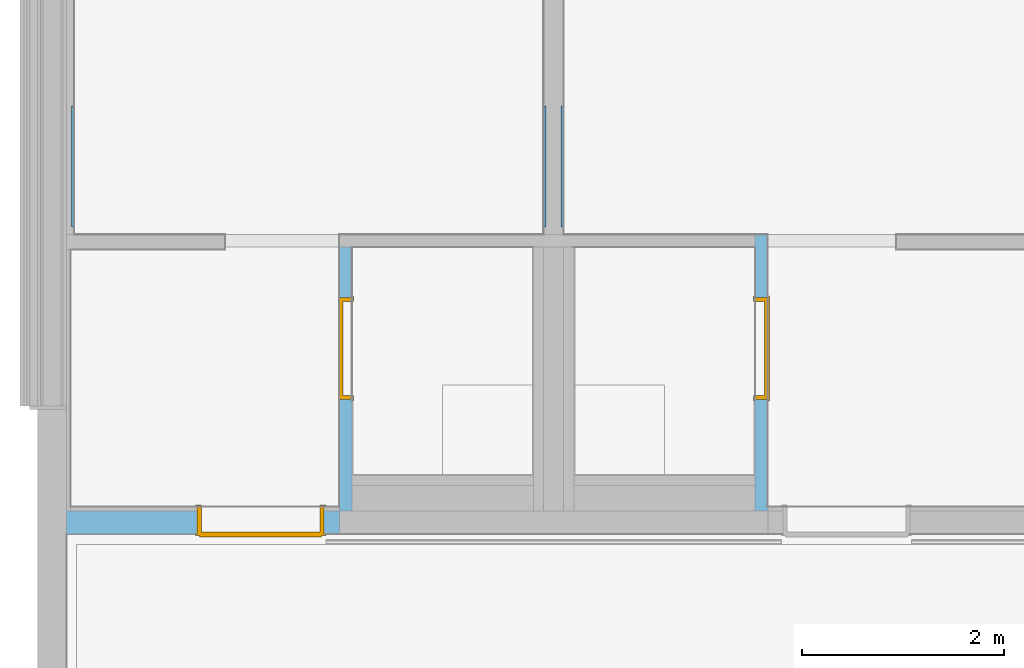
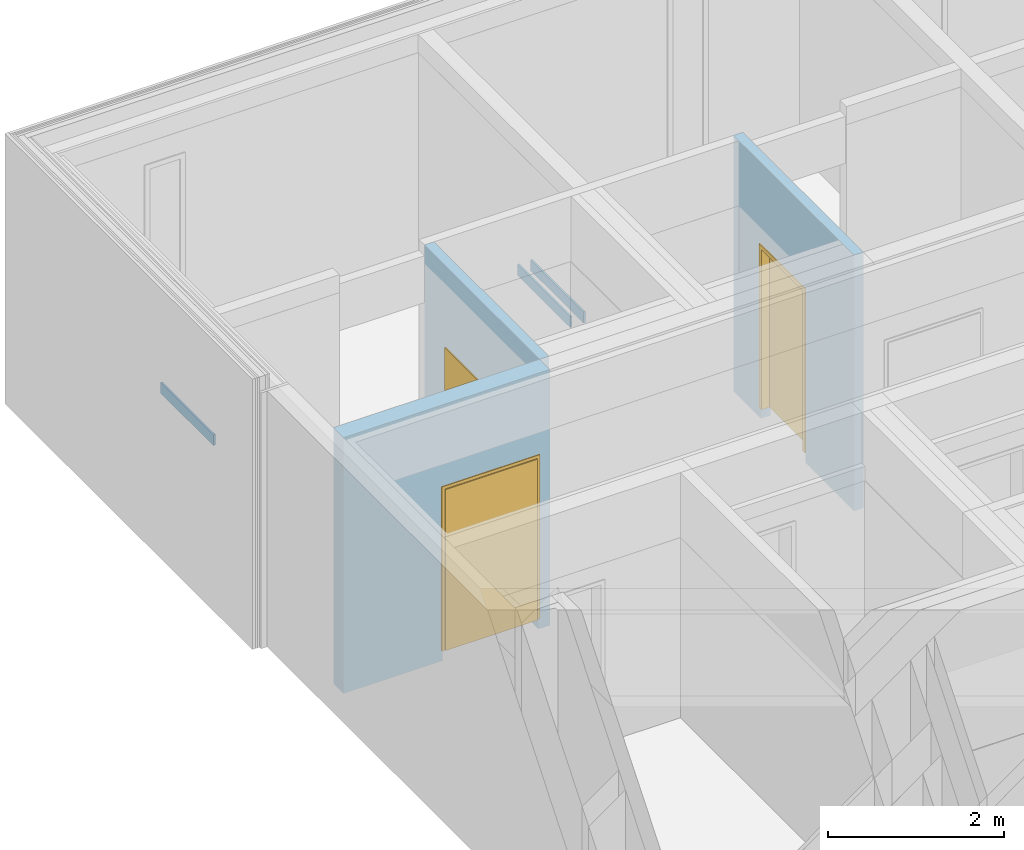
# One storey, part 99 of 222: 3 doors, 3 walls, 3 openings, plus 3 elements that do not belong to this part.
"""IFC4 building model written with IfcOpenShell, lengths in metres."""

from ifc_helpers import new_model, entity, si_unit, converted_unit, derived_unit, frame, frame_2d, origin, origin_with_axes, place, context, subcontext, project, spatial, polyline, rectangle, outline, extrude, faceted_brep, source, transform, mapped, material, type_object, element, fill, save


model = new_model("IFC4")

# Units and contexts
model_context = context("Model", 3, precision=1e-05, world=origin())
body_context = subcontext(model_context, "Body", "Model", "MODEL_VIEW")
ifc_project = project(units=[si_unit("LENGTHUNIT", "METRE"), si_unit("AREAUNIT", "SQUARE_METRE"), si_unit("VOLUMEUNIT", "CUBIC_METRE"), si_unit("MASSUNIT", "GRAM", prefix="KILO"), converted_unit("PLANEANGLEUNIT", "DEGREE", entity("IfcPlaneAngleMeasure", 0.0174532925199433), si_unit("PLANEANGLEUNIT", "RADIAN"), dimensions=[0, 0, 0, 0, 0, 0, 0]), derived_unit("THERMALTRANSMITTANCEUNIT", [(si_unit("POWERUNIT", "WATT"), 1), (si_unit("THERMODYNAMICTEMPERATUREUNIT", "KELVIN"), -1), (si_unit("LENGTHUNIT", "METRE"), -2)]), derived_unit("VOLUMETRICFLOWRATEUNIT", [(si_unit("LENGTHUNIT", "METRE"), 3), (converted_unit("TIMEUNIT", "hour", entity("IfcTimeMeasure", 3600.0), si_unit("TIMEUNIT", "SECOND"), dimensions=[0, 0, 1, 0, 0, 0, 0]), -1), (si_unit("LENGTHUNIT", "METRE"), -1)])], contexts=[model_context])

# Site, building, storey
site_placement = place(None, origin())
site = spatial("IfcSite", under=ifc_project, at=site_placement, Name="Psychiatrie Neubau Wunstorf", CompositionType="ELEMENT")
building_placement = place(site_placement, origin())
building = spatial("IfcBuilding", under=site, at=building_placement, Name="Neubau H2 Stationsgebäude", CompositionType="ELEMENT")
storey_placement = place(building_placement, frame((0.0, 0.0, 3.6)))
storey = spatial("IfcBuildingStorey", under=building, at=storey_placement, Name="H2 Ebene +1", CompositionType="ELEMENT", Elevation=3.6)

# Walls
wall_1_placement = place(storey_placement, frame((0.218999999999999, 27.1628367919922, 1.575)))
element("IfcWall", 1, at=wall_1_placement, inside=storey, Name="WV 1.1", context=body_context, shape_type="Brep", body=[
    faceted_brep([(0.025, 1.2, 0.0), (0.0, 1.2, 0.0), (0.0, 0.0, 0.0), (0.0250000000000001, 0.0, 0.0), (0.0, 1.2, 0.15), (0.025, 1.2, 0.15), (0.0250000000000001, 0.0, 0.15), (0.0, 0.0, 0.15)], [[[0, 1, 2, 3]], [[4, 5, 6, 7]], [[1, 0, 5, 4]], [[2, 1, 4, 7]], [[3, 2, 7, 6]], [[0, 3, 6, 5]]], orient=[[False], [False], [False], [False], [False], [False]]),
])
for number, where, name in (
    (2, (4.90000000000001, 27.1628367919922, 1.575), "WV 1.1"),
    (3, (5.07500000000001, 27.1628367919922, 1.575), "WV 1.1"),
):
    element("IfcWall", number, at=place(storey_placement, frame(where)), inside=storey, Name=name, context=body_context, shape_type="Brep", body=[
        faceted_brep([(0.025, 1.2, 0.0), (0.0, 1.2, 0.0), (0.0, 0.0, 0.0), (0.025, 0.0, 0.0), (0.0, 1.2, 0.15), (0.025, 1.2, 0.15), (0.025, 0.0, 0.15), (0.0, 0.0, 0.15)], [[[0, 1, 2, 3]], [[4, 5, 6, 7]], [[1, 0, 5, 4]], [[2, 1, 4, 7]], [[3, 2, 7, 6]], [[0, 3, 6, 5]]], orient=[[False], [False], [False], [False], [False], [False]]),
    ])

# Wall, opening, door
ifc_material_1 = material(Name="WI-HW 60")
wall_2_placement = place(storey_placement, frame((0.168999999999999, 24.1175, 0.0)))
wall_2 = element("IfcWall", 4, at=wall_2_placement, inside=storey, material=ifc_material_1, context=body_context, shape_type="SweptSolid", body=[
    extrude(rectangle(XDim=2.70600000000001, YDim=0.232, at=frame_2d((1.353, 0.116), x_axis=(1.0, 0.0))), origin_with_axes(), (0.0, 0.0, 1.0), 3.55),
])
opening_1_placement = place(wall_2_placement, frame((1.296, 0.0, 0.0), z_axis=(0.0, 1.0, 0.0), x_axis=(0.0, 0.0, 1.0)))
opening_1 = element("IfcOpeningElement", 5, at=opening_1_placement, cuts=wall_2, Name="Türöffnung", ObjectType="Opening", context=body_context, shape_type="SweptSolid", body=[
    extrude(outline(polyline([(2.41, 1.26), (2.41, 0.0), (0.0, 0.0), (0.0, 1.26), (2.41, 1.26)])), origin_with_axes(), (0.0, 0.0, 1.0), 0.232),
])
ifc_material_2 = material(Name="TI-2F-UZ-D")
door_type_1 = type_object("IfcDoorType", Name="SMT", OperationType="DOUBLE_DOOR_SINGLE_SWING", ParameterTakesPrecedence=False, PredefinedType="DOOR")
shared_shape_1 = source(origin_with_axes(), body_context, "Body", "Brep", [
    faceted_brep([(1.26, -0.0150000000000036, 2.41), (1.26, -0.0150000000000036, 0.15), (1.22, -0.0150000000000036, 0.15), (1.22, -0.0150000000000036, 2.41), (1.26, 0.286999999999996, 0.15), (1.26, 0.286999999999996, 2.41), (1.22, 0.286999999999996, 2.41), (1.22, 0.286999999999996, 0.15)], [[[0, 1, 2, 3]], [[4, 5, 6, 7]], [[1, 0, 5, 4]], [[2, 1, 4, 7]], [[3, 2, 7, 6]], [[0, 3, 6, 5]]], orient=[[False], [False], [False], [False], [False], [False]]),
    faceted_brep([(1.26, -0.0150000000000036, 2.425), (1.275, -0.0150000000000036, 2.425), (1.275, -0.0150000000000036, 0.15), (1.26, -0.0150000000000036, 0.15), (1.26, 0.0, 0.15), (1.275, 0.0, 0.15), (1.275, 0.0, 2.425), (1.26, 0.0, 2.425)], [[[0, 1, 2, 3]], [[4, 5, 6, 7]], [[3, 4, 7, 0]], [[2, 5, 4, 3]], [[1, 6, 5, 2]], [[0, 7, 6, 1]]], orient=[[False], [False], [False], [False], [False], [False]]),
    faceted_brep([(1.26, 0.271999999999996, 2.425), (1.275, 0.271999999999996, 2.425), (1.275, 0.271999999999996, 0.15), (1.26, 0.271999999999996, 0.15), (1.26, 0.286999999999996, 0.15), (1.275, 0.286999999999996, 0.15), (1.275, 0.286999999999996, 2.425), (1.26, 0.286999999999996, 2.425)], [[[0, 1, 2, 3]], [[4, 5, 6, 7]], [[3, 4, 7, 0]], [[2, 5, 4, 3]], [[1, 6, 5, 2]], [[0, 7, 6, 1]]], orient=[[False], [False], [False], [False], [False], [False]]),
    faceted_brep([(0.04, -0.0150000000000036, 2.41), (0.04, -0.0150000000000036, 0.15), (0.0, -0.0150000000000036, 0.15), (0.0, -0.0150000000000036, 2.41), (0.04, 0.286999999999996, 0.15), (0.04, 0.286999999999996, 2.41), (0.0, 0.286999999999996, 2.41), (0.0, 0.286999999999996, 0.15)], [[[0, 1, 2, 3]], [[4, 5, 6, 7]], [[1, 0, 5, 4]], [[2, 1, 4, 7]], [[3, 2, 7, 6]], [[0, 3, 6, 5]]], orient=[[False], [False], [False], [False], [False], [False]]),
    faceted_brep([(0.0, -0.0150000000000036, 2.425), (0.0, -0.0150000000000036, 0.15), (-0.015, -0.0150000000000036, 0.15), (-0.015, -0.0150000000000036, 2.425), (0.0, 0.0, 0.15), (0.0, 0.0, 2.425), (-0.015, 0.0, 2.425), (-0.015, 0.0, 0.15)], [[[0, 1, 2, 3]], [[4, 5, 6, 7]], [[1, 0, 5, 4]], [[2, 1, 4, 7]], [[3, 2, 7, 6]], [[0, 3, 6, 5]]], orient=[[False], [False], [False], [False], [False], [False]]),
    faceted_brep([(0.0, 0.271999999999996, 2.425), (0.0, 0.271999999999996, 0.15), (-0.015, 0.271999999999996, 0.15), (-0.015, 0.271999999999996, 2.425), (0.0, 0.286999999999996, 0.15), (0.0, 0.286999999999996, 2.425), (-0.015, 0.286999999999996, 2.425), (-0.015, 0.286999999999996, 0.15)], [[[0, 1, 2, 3]], [[4, 5, 6, 7]], [[1, 0, 5, 4]], [[2, 1, 4, 7]], [[3, 2, 7, 6]], [[0, 3, 6, 5]]], orient=[[False], [False], [False], [False], [False], [False]]),
    faceted_brep([(1.22, -0.0150000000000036, 2.41), (1.22, -0.0150000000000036, 2.37), (0.04, -0.0150000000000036, 2.37), (0.04, -0.0150000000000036, 2.41), (1.22, 0.286999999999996, 2.37), (1.22, 0.286999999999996, 2.41), (0.04, 0.286999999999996, 2.41), (0.04, 0.286999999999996, 2.37)], [[[0, 1, 2, 3]], [[4, 5, 6, 7]], [[1, 0, 5, 4]], [[2, 1, 4, 7]], [[3, 2, 7, 6]], [[0, 3, 6, 5]]], orient=[[False], [False], [False], [False], [False], [False]]),
    faceted_brep([(1.26, -0.0150000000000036, 2.425), (1.26, -0.0150000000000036, 2.41), (0.0, -0.0150000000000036, 2.41), (0.0, -0.0150000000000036, 2.425), (1.26, 0.0, 2.41), (1.26, 0.0, 2.425), (0.0, 0.0, 2.425), (0.0, 0.0, 2.41)], [[[0, 1, 2, 3]], [[4, 5, 6, 7]], [[1, 0, 5, 4]], [[2, 1, 4, 7]], [[3, 2, 7, 6]], [[0, 3, 6, 5]]], orient=[[False], [False], [False], [False], [False], [False]]),
    faceted_brep([(1.26, 0.271999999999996, 2.425), (1.26, 0.271999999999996, 2.41), (0.0, 0.271999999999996, 2.41), (0.0, 0.271999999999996, 2.425), (1.26, 0.286999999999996, 2.41), (1.26, 0.286999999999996, 2.425), (0.0, 0.286999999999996, 2.425), (0.0, 0.286999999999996, 2.41)], [[[0, 1, 2, 3]], [[4, 5, 6, 7]], [[1, 0, 5, 4]], [[2, 1, 4, 7]], [[3, 2, 7, 6]], [[0, 3, 6, 5]]], orient=[[False], [False], [False], [False], [False], [False]]),
    faceted_brep([(1.235, 0.251999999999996, 2.385), (1.235, 0.251999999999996, 0.15), (0.335, 0.251999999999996, 0.15), (0.335, 0.251999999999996, 2.385), (1.235, 0.301999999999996, 0.15), (1.235, 0.301999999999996, 2.385), (0.335, 0.301999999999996, 2.385), (0.335, 0.301999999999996, 0.15)], [[[0, 1, 2, 3]], [[4, 5, 6, 7]], [[1, 0, 5, 4]], [[2, 1, 4, 7]], [[3, 2, 7, 6]], [[0, 3, 6, 5]]], orient=[[False], [False], [False], [False], [False], [False]]),
    faceted_brep([(0.334, 0.251999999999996, 2.385), (0.334, 0.251999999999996, 0.15), (0.025, 0.251999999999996, 0.15), (0.025, 0.251999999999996, 2.385), (0.334, 0.301999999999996, 0.15), (0.334, 0.301999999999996, 2.385), (0.025, 0.301999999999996, 2.385), (0.025, 0.301999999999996, 0.15)], [[[0, 1, 2, 3]], [[4, 5, 6, 7]], [[1, 0, 5, 4]], [[2, 1, 4, 7]], [[3, 2, 7, 6]], [[0, 3, 6, 5]]], orient=[[False], [False], [False], [False], [False], [False]]),
])
door_1_placement = place(opening_1_placement, frame((0.0, 1.26, 0.271999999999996), z_axis=(1.0, 0.0, 0.0), x_axis=(0.0, -1.0, 0.0)))
door_1 = element("IfcDoor", 6, at=door_1_placement, inside=storey, type_object=door_type_1, material=ifc_material_2, Name="SMT", OverallHeight=2.41, OverallWidth=1.26, context=body_context, shape_type="MappedRepresentation", body=[
    mapped(shared_shape_1, transform((0.0, 0.0, 0.0), x_axis=(1.0, 0.0, 0.0), y_axis=(0.0, 1.0, 0.0), z_axis=(0.0, 0.0, 1.0), scale=1.0)),
])
fill(opening_1, door_1)

ifc_material_3 = material(Name="WI-LB")
wall_3_placement = place(storey_placement, frame((7.00000000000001, 27.0895, 0.0), z_axis=(0.0, 0.0, 1.0), x_axis=(-3.31932372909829e-16, -1.0, 0.0)))
wall_3 = element("IfcWall", 7, at=wall_3_placement, inside=storey, material=ifc_material_3, context=body_context, shape_type="SweptSolid", body=[
    extrude(rectangle(XDim=2.73999999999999, YDim=0.125, at=frame_2d((1.37, 0.0625), x_axis=(1.0, 0.0))), origin_with_axes(), (0.0, 0.0, 1.0), 3.55),
])
opening_2_placement = place(wall_3_placement, frame((0.625, 0.0, 0.0), z_axis=(0.0, 1.0, 0.0), x_axis=(0.0, 0.0, 1.0)))
opening_2 = element("IfcOpeningElement", 8, at=opening_2_placement, cuts=wall_3, Name="Türöffnung", ObjectType="Opening", context=body_context, shape_type="SweptSolid", body=[
    extrude(outline(polyline([(2.41, 1.01), (2.41, 0.0), (0.0, 0.0), (0.0, 1.01), (2.41, 1.01)])), origin_with_axes(), (0.0, 0.0, 1.0), 0.125),
])
ifc_material_4 = material(Name="TI-1F-UZ-D-N")
door_type_2 = type_object("IfcDoorType", Name="SMT", OperationType="SINGLE_SWING_RIGHT", ParameterTakesPrecedence=False, PredefinedType="DOOR")
shared_shape_2 = source(origin_with_axes(), body_context, "Body", "Brep", [
    faceted_brep([(1.05000000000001, 0.0124999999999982, 0.0), (1.05000000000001, 0.1125, 0.0), (1.01000000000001, 0.1125, 0.0), (1.01000000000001, 0.0124999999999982, 0.0), (1.05000000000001, 0.1125, 3.55), (1.05000000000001, 0.0124999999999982, 3.55), (1.01000000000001, 0.0124999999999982, 3.55), (1.01000000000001, 0.1125, 3.55)], [[[0, 1, 2, 3]], [[4, 5, 6, 7]], [[1, 0, 5, 4]], [[2, 1, 4, 7]], [[3, 2, 7, 6]], [[0, 3, 6, 5]]], orient=[[False], [False], [False], [False], [False], [False]]),
    faceted_brep([(0.0, 0.0124999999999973, 0.0), (0.0, 0.112499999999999, 0.0), (-0.0399999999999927, 0.112499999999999, 0.0), (-0.0399999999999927, 0.0124999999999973, 0.0), (0.0, 0.112499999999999, 3.55), (0.0, 0.0124999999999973, 3.55), (-0.0399999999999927, 0.0124999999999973, 3.55), (-0.0399999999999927, 0.112499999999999, 3.55)], [[[0, 1, 2, 3]], [[4, 5, 6, 7]], [[1, 0, 5, 4]], [[2, 1, 4, 7]], [[3, 2, 7, 6]], [[0, 3, 6, 5]]], orient=[[False], [False], [False], [False], [False], [False]]),
    faceted_brep([(1.01000000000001, 0.0124999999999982, 2.41), (1.01000000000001, 0.1125, 2.41), (0.0, 0.112499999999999, 2.41), (0.0, 0.0124999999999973, 2.41), (1.01000000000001, 0.1125, 2.45), (1.01000000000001, 0.0124999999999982, 2.45), (0.0, 0.0124999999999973, 2.45), (0.0, 0.112499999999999, 2.45)], [[[0, 1, 2, 3]], [[4, 5, 6, 7]], [[1, 0, 5, 4]], [[2, 1, 4, 7]], [[3, 2, 7, 6]], [[0, 3, 6, 5]]], orient=[[False], [False], [False], [False], [False], [False]]),
])
shared_shape_3 = source(origin_with_axes(), body_context, "Body", "Brep", [
    faceted_brep([(1.01000000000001, -0.0150000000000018, 2.41), (1.01000000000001, -0.0150000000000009, 0.15), (0.970000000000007, -0.0150000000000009, 0.15), (0.970000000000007, -0.0150000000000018, 2.41), (1.01000000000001, 0.14, 0.15), (1.01000000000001, 0.14, 2.41), (0.970000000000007, 0.14, 2.41), (0.970000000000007, 0.14, 0.15)], [[[0, 1, 2, 3]], [[4, 5, 6, 7]], [[1, 0, 5, 4]], [[2, 1, 4, 7]], [[3, 2, 7, 6]], [[0, 3, 6, 5]]], orient=[[False], [False], [False], [False], [False], [False]]),
    faceted_brep([(1.01000000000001, -0.0150000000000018, 2.425), (1.02500000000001, -0.0150000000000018, 2.425), (1.02500000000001, -0.0150000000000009, 0.15), (1.01000000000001, -0.0150000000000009, 0.15), (1.01000000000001, 0.0, 0.15), (1.02500000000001, 0.0, 0.15), (1.02500000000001, 0.0, 2.425), (1.01000000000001, 0.0, 2.425)], [[[0, 1, 2, 3]], [[4, 5, 6, 7]], [[3, 4, 7, 0]], [[2, 5, 4, 3]], [[1, 6, 5, 2]], [[0, 7, 6, 1]]], orient=[[False], [False], [False], [False], [False], [False]]),
    faceted_brep([(1.01000000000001, 0.125, 2.425), (1.02500000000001, 0.125, 2.425), (1.02500000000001, 0.125, 0.15), (1.01000000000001, 0.125, 0.15), (1.01000000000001, 0.14, 0.15), (1.02500000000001, 0.14, 0.15), (1.02500000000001, 0.14, 2.425), (1.01000000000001, 0.14, 2.425)], [[[0, 1, 2, 3]], [[4, 5, 6, 7]], [[3, 4, 7, 0]], [[2, 5, 4, 3]], [[1, 6, 5, 2]], [[0, 7, 6, 1]]], orient=[[False], [False], [False], [False], [False], [False]]),
    faceted_brep([(0.0400000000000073, -0.0150000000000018, 2.41), (0.0400000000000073, -0.0150000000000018, 0.15), (0.0, -0.0150000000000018, 0.15), (0.0, -0.0150000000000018, 2.41), (0.0400000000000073, 0.139999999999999, 0.15), (0.0400000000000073, 0.139999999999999, 2.41), (0.0, 0.139999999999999, 2.41), (0.0, 0.139999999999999, 0.15)], [[[0, 1, 2, 3]], [[4, 5, 6, 7]], [[1, 0, 5, 4]], [[2, 1, 4, 7]], [[3, 2, 7, 6]], [[0, 3, 6, 5]]], orient=[[False], [False], [False], [False], [False], [False]]),
    faceted_brep([(0.0, -0.0150000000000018, 2.425), (0.0, -0.0150000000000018, 0.15), (-0.0149999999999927, -0.0150000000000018, 0.15), (-0.0149999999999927, -0.0150000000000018, 2.425), (0.0, 0.0, 0.15), (0.0, 0.0, 2.425), (-0.0149999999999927, 0.0, 2.425), (-0.0149999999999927, 0.0, 0.15)], [[[0, 1, 2, 3]], [[4, 5, 6, 7]], [[1, 0, 5, 4]], [[2, 1, 4, 7]], [[3, 2, 7, 6]], [[0, 3, 6, 5]]], orient=[[False], [False], [False], [False], [False], [False]]),
    faceted_brep([(0.0, 0.124999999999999, 2.425), (0.0, 0.124999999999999, 0.15), (-0.0149999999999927, 0.124999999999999, 0.15), (-0.0149999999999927, 0.124999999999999, 2.425), (0.0, 0.139999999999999, 0.15), (0.0, 0.139999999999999, 2.425), (-0.0149999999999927, 0.139999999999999, 2.425), (-0.0149999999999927, 0.139999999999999, 0.15)], [[[0, 1, 2, 3]], [[4, 5, 6, 7]], [[1, 0, 5, 4]], [[2, 1, 4, 7]], [[3, 2, 7, 6]], [[0, 3, 6, 5]]], orient=[[False], [False], [False], [False], [False], [False]]),
    faceted_brep([(0.970000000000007, -0.0150000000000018, 2.41), (0.970000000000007, -0.0150000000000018, 2.37), (0.0400000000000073, -0.0150000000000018, 2.37), (0.0400000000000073, -0.0150000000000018, 2.41), (0.970000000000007, 0.14, 2.37), (0.970000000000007, 0.14, 2.41), (0.0400000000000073, 0.139999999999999, 2.41), (0.0400000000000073, 0.139999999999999, 2.37)], [[[0, 1, 2, 3]], [[4, 5, 6, 7]], [[1, 0, 5, 4]], [[2, 1, 4, 7]], [[3, 2, 7, 6]], [[0, 3, 6, 5]]], orient=[[False], [False], [False], [False], [False], [False]]),
    faceted_brep([(1.01000000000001, -0.0150000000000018, 2.425), (1.01000000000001, -0.0150000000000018, 2.41), (0.0, -0.0150000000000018, 2.41), (0.0, -0.0150000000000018, 2.425), (1.01000000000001, 0.0, 2.41), (1.01000000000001, 0.0, 2.425), (0.0, 0.0, 2.425), (0.0, 0.0, 2.41)], [[[0, 1, 2, 3]], [[4, 5, 6, 7]], [[1, 0, 5, 4]], [[2, 1, 4, 7]], [[3, 2, 7, 6]], [[0, 3, 6, 5]]], orient=[[False], [False], [False], [False], [False], [False]]),
    faceted_brep([(1.01000000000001, 0.125, 2.425), (1.01000000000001, 0.125, 2.41), (0.0, 0.124999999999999, 2.41), (0.0, 0.124999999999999, 2.425), (1.01000000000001, 0.14, 2.41), (1.01000000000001, 0.14, 2.425), (0.0, 0.139999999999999, 2.425), (0.0, 0.139999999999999, 2.41)], [[[0, 1, 2, 3]], [[4, 5, 6, 7]], [[1, 0, 5, 4]], [[2, 1, 4, 7]], [[3, 2, 7, 6]], [[0, 3, 6, 5]]], orient=[[False], [False], [False], [False], [False], [False]]),
    faceted_brep([(0.985000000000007, 0.0909999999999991, 2.385), (0.985000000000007, 0.091, 0.15), (0.0250000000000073, 0.0909999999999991, 0.15), (0.0250000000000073, 0.0909999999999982, 2.385), (0.985000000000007, 0.141, 0.15), (0.985000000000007, 0.141, 2.385), (0.0250000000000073, 0.140999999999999, 2.385), (0.0250000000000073, 0.140999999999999, 0.15)], [[[0, 1, 2, 3]], [[4, 5, 6, 7]], [[1, 0, 5, 4]], [[2, 1, 4, 7]], [[3, 2, 7, 6]], [[0, 3, 6, 5]]], orient=[[False], [False], [False], [False], [False], [False]]),
])
door_2_placement = place(opening_2_placement, frame((0.0, 0.0, 0.0), z_axis=(1.0, 0.0, 0.0), x_axis=(0.0, 1.0, -5.68557430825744e-16)))
door_2 = element("IfcDoor", 9, at=door_2_placement, inside=storey, type_object=door_type_2, material=ifc_material_4, Name="SMT", OverallHeight=2.41, OverallWidth=1.01, context=body_context, shape_type="MappedRepresentation", body=[
    mapped(shared_shape_2, transform((0.0, 0.0, 0.0), x_axis=(1.0, 0.0, 0.0), y_axis=(0.0, 1.0, 0.0), z_axis=(0.0, 0.0, 1.0), scale=1.0)),
    mapped(shared_shape_3, transform((0.0, 0.0, 0.0), x_axis=(1.0, 0.0, 0.0), y_axis=(0.0, 1.0, 0.0), z_axis=(0.0, 0.0, 1.0), scale=1.0)),
])
fill(opening_2, door_2)

ifc_material_5 = material(Name="WI-LB")
wall_4_placement = place(storey_placement, frame((2.87500000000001, 26.9645, 0.0), z_axis=(0.0, 0.0, 1.0), x_axis=(-3.47799121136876e-16, -1.0, 0.0)))
wall_4 = element("IfcWall", 10, at=wall_4_placement, inside=storey, material=ifc_material_5, context=body_context, shape_type="SweptSolid", body=[
    extrude(rectangle(XDim=2.615, YDim=0.125, at=frame_2d((1.3075, 0.0625), x_axis=(1.0, 0.0))), origin_with_axes(), (0.0, 0.0, 1.0), 3.55),
])
opening_3_placement = place(wall_4_placement, frame((1.51, 0.125, 0.0), z_axis=(0.0, -1.0, 0.0), x_axis=(0.0, 0.0, 1.0)))
opening_3 = element("IfcOpeningElement", 11, at=opening_3_placement, cuts=wall_4, Name="Türöffnung", ObjectType="Opening", context=body_context, shape_type="SweptSolid", body=[
    extrude(outline(polyline([(2.41, 1.01), (2.41, 0.0), (0.0, 0.0), (0.0, 1.01), (2.41, 1.01)])), origin_with_axes(), (0.0, 0.0, 1.0), 0.125),
])
ifc_material_6 = material(Name="TI-1F-UZ-D-N")
door_type_3 = type_object("IfcDoorType", Name="SMT", OperationType="SINGLE_SWING_RIGHT", ParameterTakesPrecedence=False, PredefinedType="DOOR")
shared_shape_4 = source(origin_with_axes(), body_context, "Body", "Brep", [
    faceted_brep([(-0.0400000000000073, 0.0125000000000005, 0.0), (0.0, 0.0125000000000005, 0.0), (0.0, 0.112500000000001, 0.0), (-0.0400000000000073, 0.112500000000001, 0.0), (-0.0400000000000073, 0.112500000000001, 3.55), (0.0, 0.112500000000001, 3.55), (0.0, 0.0125000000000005, 3.55), (-0.0400000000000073, 0.0125000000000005, 3.55)], [[[0, 1, 2, 3]], [[4, 5, 6, 7]], [[3, 4, 7, 0]], [[2, 5, 4, 3]], [[1, 6, 5, 2]], [[0, 7, 6, 1]]], orient=[[False], [False], [False], [False], [False], [False]]),
    faceted_brep([(1.00999999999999, 0.0125000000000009, 0.0), (1.04999999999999, 0.0125000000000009, 0.0), (1.04999999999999, 0.112500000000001, 0.0), (1.00999999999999, 0.112500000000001, 0.0), (1.00999999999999, 0.112500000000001, 3.55), (1.04999999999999, 0.112500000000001, 3.55), (1.04999999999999, 0.0125000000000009, 3.55), (1.00999999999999, 0.0125000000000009, 3.55)], [[[0, 1, 2, 3]], [[4, 5, 6, 7]], [[3, 4, 7, 0]], [[2, 5, 4, 3]], [[1, 6, 5, 2]], [[0, 7, 6, 1]]], orient=[[False], [False], [False], [False], [False], [False]]),
    faceted_brep([(0.0, 0.0125000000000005, 2.41), (1.00999999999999, 0.0125000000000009, 2.41), (1.00999999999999, 0.112500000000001, 2.41), (0.0, 0.112500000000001, 2.41), (0.0, 0.112500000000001, 2.45), (1.00999999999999, 0.112500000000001, 2.45), (1.00999999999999, 0.0125000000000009, 2.45), (0.0, 0.0125000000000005, 2.45)], [[[0, 1, 2, 3]], [[4, 5, 6, 7]], [[3, 4, 7, 0]], [[2, 5, 4, 3]], [[1, 6, 5, 2]], [[0, 7, 6, 1]]], orient=[[False], [False], [False], [False], [False], [False]]),
])
shared_shape_5 = source(origin_with_axes(), body_context, "Body", "Brep", [
    faceted_brep([(0.0, -0.015, 2.41), (0.0399999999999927, -0.015, 2.41), (0.0399999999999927, -0.0149999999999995, 0.15), (0.0, -0.0149999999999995, 0.15), (0.0, 0.140000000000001, 0.15), (0.0399999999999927, 0.140000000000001, 0.15), (0.0399999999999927, 0.14, 2.41), (0.0, 0.14, 2.41)], [[[0, 1, 2, 3]], [[4, 5, 6, 7]], [[3, 4, 7, 0]], [[2, 5, 4, 3]], [[1, 6, 5, 2]], [[0, 7, 6, 1]]], orient=[[False], [False], [False], [False], [False], [False]]),
    faceted_brep([(0.0, -0.015, 2.425), (0.0, -0.0149999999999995, 0.15), (-0.0150000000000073, -0.0149999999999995, 0.15), (-0.0150000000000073, -0.015, 2.425), (0.0, 0.0, 0.15), (0.0, 0.0, 2.425), (-0.0150000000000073, 0.0, 2.425), (-0.0150000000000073, 0.0, 0.15)], [[[0, 1, 2, 3]], [[4, 5, 6, 7]], [[1, 0, 5, 4]], [[2, 1, 4, 7]], [[3, 2, 7, 6]], [[0, 3, 6, 5]]], orient=[[False], [False], [False], [False], [False], [False]]),
    faceted_brep([(0.0, 0.125, 2.425), (0.0, 0.125000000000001, 0.15), (-0.0150000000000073, 0.125000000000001, 0.15), (-0.0150000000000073, 0.125, 2.425), (0.0, 0.140000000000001, 0.15), (0.0, 0.14, 2.425), (-0.0150000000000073, 0.14, 2.425), (-0.0150000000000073, 0.140000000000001, 0.15)], [[[0, 1, 2, 3]], [[4, 5, 6, 7]], [[1, 0, 5, 4]], [[2, 1, 4, 7]], [[3, 2, 7, 6]], [[0, 3, 6, 5]]], orient=[[False], [False], [False], [False], [False], [False]]),
    faceted_brep([(0.969999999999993, -0.0149999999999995, 2.41), (1.00999999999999, -0.0149999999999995, 2.41), (1.00999999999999, -0.0149999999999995, 0.15), (0.969999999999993, -0.0149999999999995, 0.15), (0.969999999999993, 0.140000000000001, 0.15), (1.00999999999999, 0.140000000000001, 0.15), (1.00999999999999, 0.140000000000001, 2.41), (0.969999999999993, 0.140000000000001, 2.41)], [[[0, 1, 2, 3]], [[4, 5, 6, 7]], [[3, 4, 7, 0]], [[2, 5, 4, 3]], [[1, 6, 5, 2]], [[0, 7, 6, 1]]], orient=[[False], [False], [False], [False], [False], [False]]),
    faceted_brep([(1.00999999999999, -0.0149999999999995, 2.425), (1.02499999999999, -0.0149999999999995, 2.425), (1.02499999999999, -0.0149999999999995, 0.15), (1.00999999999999, -0.0149999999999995, 0.15), (1.00999999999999, 0.0, 0.15), (1.02499999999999, 0.0, 0.15), (1.02499999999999, 0.0, 2.425), (1.00999999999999, 0.0, 2.425)], [[[0, 1, 2, 3]], [[4, 5, 6, 7]], [[3, 4, 7, 0]], [[2, 5, 4, 3]], [[1, 6, 5, 2]], [[0, 7, 6, 1]]], orient=[[False], [False], [False], [False], [False], [False]]),
    faceted_brep([(1.00999999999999, 0.125000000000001, 2.425), (1.02499999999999, 0.125000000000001, 2.425), (1.02499999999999, 0.125000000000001, 0.15), (1.00999999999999, 0.125000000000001, 0.15), (1.00999999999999, 0.140000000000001, 0.15), (1.02499999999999, 0.140000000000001, 0.15), (1.02499999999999, 0.140000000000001, 2.425), (1.00999999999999, 0.140000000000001, 2.425)], [[[0, 1, 2, 3]], [[4, 5, 6, 7]], [[3, 4, 7, 0]], [[2, 5, 4, 3]], [[1, 6, 5, 2]], [[0, 7, 6, 1]]], orient=[[False], [False], [False], [False], [False], [False]]),
    faceted_brep([(0.0399999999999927, -0.015, 2.41), (0.969999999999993, -0.0149999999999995, 2.41), (0.969999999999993, -0.0149999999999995, 2.37), (0.0399999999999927, -0.015, 2.37), (0.0399999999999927, 0.14, 2.37), (0.969999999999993, 0.140000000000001, 2.37), (0.969999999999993, 0.140000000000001, 2.41), (0.0399999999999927, 0.14, 2.41)], [[[0, 1, 2, 3]], [[4, 5, 6, 7]], [[3, 4, 7, 0]], [[2, 5, 4, 3]], [[1, 6, 5, 2]], [[0, 7, 6, 1]]], orient=[[False], [False], [False], [False], [False], [False]]),
    faceted_brep([(0.0, -0.015, 2.425), (1.00999999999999, -0.0149999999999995, 2.425), (1.00999999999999, -0.0149999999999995, 2.41), (0.0, -0.015, 2.41), (0.0, 0.0, 2.41), (1.00999999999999, 0.0, 2.41), (1.00999999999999, 0.0, 2.425), (0.0, 0.0, 2.425)], [[[0, 1, 2, 3]], [[4, 5, 6, 7]], [[3, 4, 7, 0]], [[2, 5, 4, 3]], [[1, 6, 5, 2]], [[0, 7, 6, 1]]], orient=[[False], [False], [False], [False], [False], [False]]),
    faceted_brep([(0.0, 0.125, 2.425), (1.00999999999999, 0.125000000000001, 2.425), (1.00999999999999, 0.125000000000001, 2.41), (0.0, 0.125, 2.41), (0.0, 0.14, 2.41), (1.00999999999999, 0.140000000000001, 2.41), (1.00999999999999, 0.140000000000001, 2.425), (0.0, 0.14, 2.425)], [[[0, 1, 2, 3]], [[4, 5, 6, 7]], [[3, 4, 7, 0]], [[2, 5, 4, 3]], [[1, 6, 5, 2]], [[0, 7, 6, 1]]], orient=[[False], [False], [False], [False], [False], [False]]),
    faceted_brep([(0.0249999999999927, 0.0910000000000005, 2.385), (0.984999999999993, 0.0910000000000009, 2.385), (0.984999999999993, 0.0910000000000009, 0.15), (0.0249999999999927, 0.0910000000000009, 0.15), (0.0249999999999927, 0.141000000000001, 0.15), (0.984999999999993, 0.141000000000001, 0.15), (0.984999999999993, 0.141000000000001, 2.385), (0.0249999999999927, 0.141, 2.385)], [[[0, 1, 2, 3]], [[4, 5, 6, 7]], [[3, 4, 7, 0]], [[2, 5, 4, 3]], [[1, 6, 5, 2]], [[0, 7, 6, 1]]], orient=[[False], [False], [False], [False], [False], [False]]),
])
door_3_placement = place(opening_3_placement, frame((0.0, 0.0, 0.0), z_axis=(1.0, 0.0, 0.0), x_axis=(0.0, 1.0, -1.02445780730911e-16)))
door_3 = element("IfcDoor", 12, at=door_3_placement, inside=storey, type_object=door_type_3, material=ifc_material_6, Name="SMT", OverallHeight=2.41, OverallWidth=1.01, context=body_context, shape_type="MappedRepresentation", body=[
    mapped(shared_shape_4, transform((0.0, 0.0, 0.0), x_axis=(1.0, 0.0, 0.0), y_axis=(0.0, 1.0, 0.0), z_axis=(0.0, 0.0, 1.0), scale=1.0)),
    mapped(shared_shape_5, transform((0.0, 0.0, 0.0), x_axis=(1.0, 0.0, 0.0), y_axis=(0.0, 1.0, 0.0), z_axis=(0.0, 0.0, 1.0), scale=1.0)),
])
fill(opening_3, door_3)

save(model, "model.ifc")
